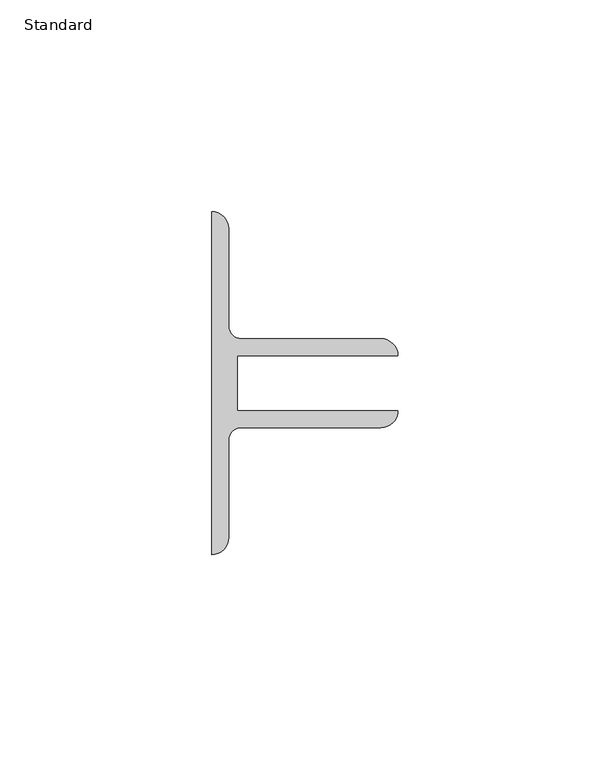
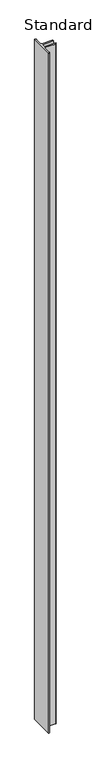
"""IFC4 building model written with IfcOpenShell, lengths in millimetres: furniture geometry, X_Partition-Channel-Duracube-Urinal Divider : Standard."""

from ifc_helpers import new_model, si_unit, point, frame_2d, origin, origin_with_axes, place, context, project, spatial, polyline, circle_curve, trimmed, segment, composite_curve, outline, extrude, source, transform, mapped, element, save


def standard_2d2cdbe9(model_context):
    return source(origin(), model_context, "Body", "SweptSolid", [
        extrude(outline(composite_curve([segment(polyline([(28.7003264, 0.0), (28.7003264, -13.0), (66.7003264, -13.0)]), True, "CONTINUOUS"), segment(trimmed(circle_curve(frame_2d((62.7003264, -13.0)), 4.0), [point((66.7003264, -13.0))], [point((62.7003264, -17.0))], False, "CARTESIAN"), True, "CONTINUOUS"), segment(polyline([(62.7003264, -17.0), (29.7003264, -17.0)]), True, "CONTINUOUS"), segment(trimmed(circle_curve(frame_2d((29.7003264, -20.0)), 3.0), [point((29.7003264, -17.0))], [point((26.7003264, -20.0))], True, "CARTESIAN"), True, "CONTINUOUS"), segment(polyline([(26.7003264, -20.0), (26.7003264, -43.0)]), True, "CONTINUOUS"), segment(trimmed(circle_curve(frame_2d((22.7003264, -43.0)), 4.0), [point((26.7003264, -43.0))], [point((22.7003264, -47.0))], False, "CARTESIAN"), True, "CONTINUOUS"), segment(polyline([(22.7003264, -47.0), (22.7003264, 34.0)]), True, "CONTINUOUS"), segment(trimmed(circle_curve(frame_2d((22.7003264, 30.0)), 4.0), [point((22.7003264, 34.0))], [point((26.7003264, 30.0))], False, "CARTESIAN"), True, "CONTINUOUS"), segment(polyline([(26.7003264, 30.0), (26.7003264, 7.0)]), True, "CONTINUOUS"), segment(trimmed(circle_curve(frame_2d((29.7003264, 7.0)), 3.0), [point((26.7003264, 7.0))], [point((29.7003264, 4.0))], True, "CARTESIAN"), True, "CONTINUOUS"), segment(polyline([(29.7003264, 4.0), (62.7003264, 4.0)]), True, "CONTINUOUS"), segment(trimmed(circle_curve(frame_2d((62.7003264, 0.0)), 4.0), [point((62.7003264, 4.0))], [point((66.7003264, 0.0))], False, "CARTESIAN"), True, "CONTINUOUS"), segment(polyline([(66.7003264, 0.0), (28.7003264, 0.0)]), True, "CONTINUOUS")], self_intersect=False)), origin_with_axes(), (0.0, 0.0, 1.0), 2400.0),
    ])


if __name__ == "__main__":
    model = new_model("IFC4")
    model_context = context("Model", 3, world=origin())
    ifc_project = project(units=[si_unit("LENGTHUNIT", "METRE", prefix="MILLI")], contexts=[model_context])
    site = spatial("IfcSite", under=ifc_project)
    building = spatial("IfcBuilding", under=site)
    placement = place(None, origin())
    standard_shape = standard_2d2cdbe9(model_context)
    element("IfcFurniture", 1, ObjectType="X_Partition-Channel-Duracube-Urinal Divider : Standard", at=placement, inside=building, context=model_context, shape_type="MappedRepresentation", body=[
        mapped(standard_shape, transform((0.0, 0.0, 0.0), x_axis=(1.0, 0.0, 0.0), y_axis=(0.0, 1.0, 0.0), z_axis=(0.0, 0.0, 1.0))),
    ])
    save(model, "model.ifc")
